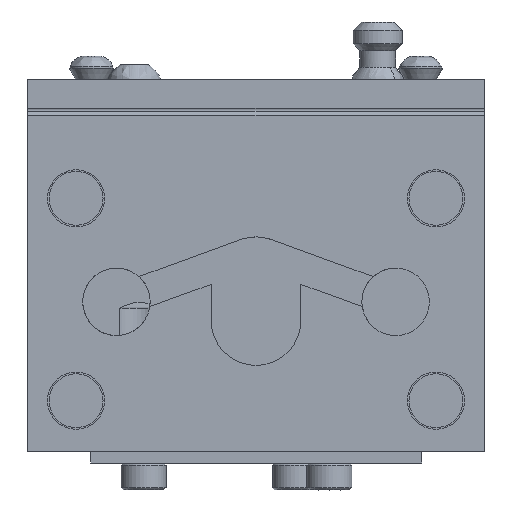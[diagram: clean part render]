
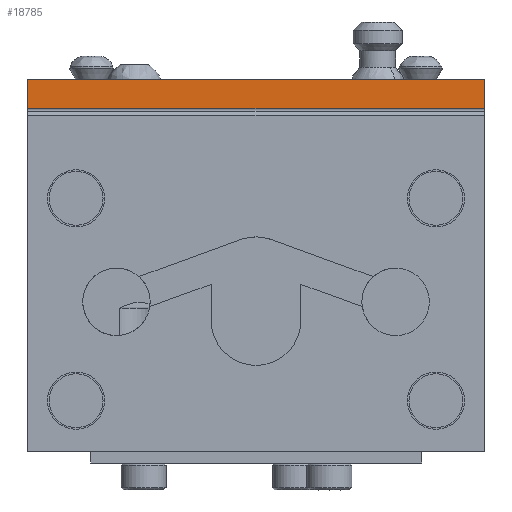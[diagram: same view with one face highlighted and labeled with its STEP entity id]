
A CAD part, front view. The second image highlights one B-rep face of the part: STEP entity #18785.
In plain terms, the highlighted planar face has unit normal (0, -1, 0).
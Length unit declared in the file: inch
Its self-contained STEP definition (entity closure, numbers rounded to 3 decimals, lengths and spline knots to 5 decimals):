
#282 = VERTEX_POINT ( 'NONE', #976 ) ;
#694 = EDGE_CURVE ( 'NONE', #11153, #282, #3357, .T. ) ;
#963 = CARTESIAN_POINT ( 'NONE',  ( 1.01514, -1.9331, 0.59791 ) ) ;
#976 = CARTESIAN_POINT ( 'NONE',  ( -2.98486, -1.9331, 0.84791 ) ) ;
#1382 = AXIS2_PLACEMENT_3D ( 'NONE', #19669, #17765, #19390 ) ;
#1394 = CARTESIAN_POINT ( 'NONE',  ( -2.98486, -1.9331, 0.59791 ) ) ;
#1437 = ORIENTED_EDGE ( 'NONE', *, *, #15957, .T. ) ;
#1505 = VERTEX_POINT ( 'NONE', #1394 ) ;
#1528 = LINE ( 'NONE', #4735, #3047 ) ;
#1855 = CARTESIAN_POINT ( 'NONE',  ( -2.98486, -1.9331, 0.84791 ) ) ;
#2516 = FACE_OUTER_BOUND ( 'NONE', #19399, .T. ) ;
#2679 = LINE ( 'NONE', #13301, #7220 ) ;
#3047 = VECTOR ( 'NONE', #10698, 39.37008 ) ;
#3357 = LINE ( 'NONE', #1855, #5223 ) ;
#4062 = DIRECTION ( 'NONE',  ( 0., 0., -1. ) ) ;
#4735 = CARTESIAN_POINT ( 'NONE',  ( -2.98486, -1.9331, 0.59791 ) ) ;
#5223 = VECTOR ( 'NONE', #11253, 39.37008 ) ;
#7220 = VECTOR ( 'NONE', #8742, 39.37008 ) ;
#8030 = ORIENTED_EDGE ( 'NONE', *, *, #694, .T. ) ;
#8742 = DIRECTION ( 'NONE',  ( 0., 0., 1. ) ) ;
#10604 = CARTESIAN_POINT ( 'NONE',  ( -2.98486, -1.9331, -2.40209 ) ) ;
#10698 = DIRECTION ( 'NONE',  ( 1., 0., 0. ) ) ;
#11153 = VERTEX_POINT ( 'NONE', #14486 ) ;
#11253 = DIRECTION ( 'NONE',  ( -1., 0., 0. ) ) ;
#11628 = ORIENTED_EDGE ( 'NONE', *, *, #16054, .T. ) ;
#11884 = EDGE_CURVE ( 'NONE', #13826, #11153, #2679, .T. ) ;
#13083 = VECTOR ( 'NONE', #4062, 39.37008 ) ;
#13301 = CARTESIAN_POINT ( 'NONE',  ( 1.01514, -1.9331, -2.40209 ) ) ;
#13826 = VERTEX_POINT ( 'NONE', #963 ) ;
#14486 = CARTESIAN_POINT ( 'NONE',  ( 1.01514, -1.9331, 0.84791 ) ) ;
#14741 = PLANE ( 'NONE',  #1382 ) ;
#15957 = EDGE_CURVE ( 'NONE', #282, #1505, #17900, .T. ) ;
#16054 = EDGE_CURVE ( 'NONE', #1505, #13826, #1528, .T. ) ;
#17765 = DIRECTION ( 'NONE',  ( 0., -1., 0. ) ) ;
#17900 = LINE ( 'NONE', #10604, #13083 ) ;
#18785 = ADVANCED_FACE ( 'NONE', ( #2516 ), #14741, .T. ) ;
#19390 = DIRECTION ( 'NONE',  ( 0., 0., -1. ) ) ;
#19399 = EDGE_LOOP ( 'NONE', ( #11628, #19823, #8030, #1437 ) ) ;
#19669 = CARTESIAN_POINT ( 'NONE',  ( -2.98486, -1.9331, 0.59791 ) ) ;
#19823 = ORIENTED_EDGE ( 'NONE', *, *, #11884, .T. ) ;
